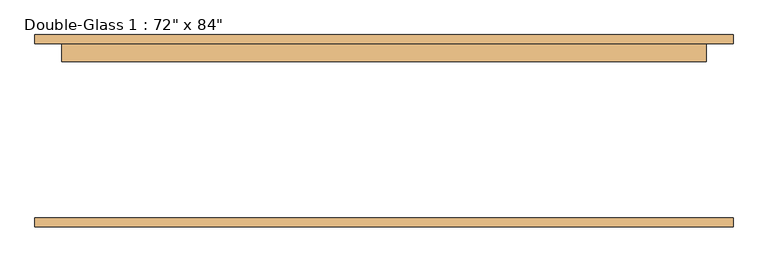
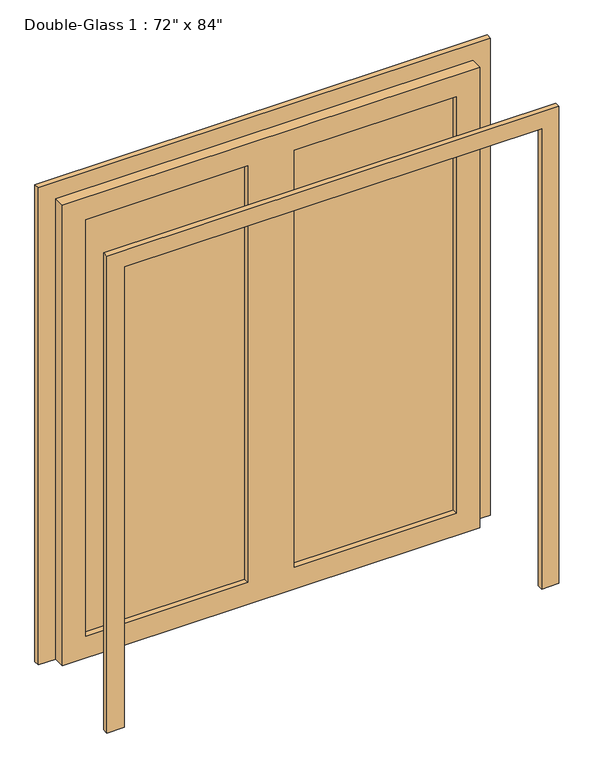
"""IFC4 building model written with IfcOpenShell, lengths in millimetres: door geometry."""

from ifc_helpers import new_model, si_unit, frame, origin, place, context, project, spatial, polyline, outline, extrude, source, transform, mapped, element, save


def door_c0c9bc6f(model_context):
    return source(origin(), model_context, "Body", "SweptSolid", [
        extrude(outline(polyline([(0.0, 990.6), (2209.8, 990.6), (2209.8, -990.6), (0.0, -990.6), (0.0, -914.4), (2133.6, -914.4), (2133.6, 914.4), (0.0, 914.4), (0.0, 990.6)])), frame((0.0, -270.66875, 0.0), z_axis=(0.0, 1.0, 0.0), x_axis=(0.0, 0.0, 1.0)), (0.0, 0.0, 1.0), 25.4),
        extrude(outline(polyline([(2133.6, 914.4), (0.0, 914.4), (0.0, 990.6), (2209.8, 990.6), (2209.8, -990.6), (0.0, -990.6), (0.0, -914.4), (2133.6, -914.4), (2133.6, 914.4)])), frame((0.0, 250.03125, 0.0), z_axis=(0.0, 1.0, 0.0), x_axis=(0.0, 0.0, 1.0)), (0.0, 0.0, 1.0), 25.4),
        extrude(outline(polyline([(812.8, 224.63125), (101.6, 224.63125), (101.6, 231.775), (812.8, 231.775), (812.8, 224.63125)])), frame((0.0, 0.0, 101.6), z_axis=(0.0, 0.0, 1.0), x_axis=(1.0, 0.0, 0.0)), (0.0, 0.0, 1.0), 1930.4),
        extrude(outline(polyline([(-101.6, 224.63125), (-812.8, 224.63125), (-812.8, 231.775), (-101.6, 231.775), (-101.6, 224.63125)])), frame((0.0, 0.0, 101.6), z_axis=(0.0, 0.0, 1.0), x_axis=(1.0, 0.0, 0.0)), (0.0, 0.0, 1.0), 1930.4),
        extrude(outline(polyline([(2133.6, 914.4), (2133.6, -914.4), (0.0, -914.4), (0.0, 914.4), (2133.6, 914.4)]), holes=[polyline([(2032.0, -101.6), (101.6, -101.6), (101.6, -812.8), (2032.0, -812.8), (2032.0, -101.6)]), polyline([(2032.0, 812.8), (101.6, 812.8), (101.6, 101.6), (2032.0, 101.6), (2032.0, 812.8)])]), frame((0.0, 199.23125, 0.0), z_axis=(0.0, 1.0, 0.0), x_axis=(0.0, 0.0, 1.0)), (0.0, 0.0, 1.0), 50.8),
    ])


if __name__ == "__main__":
    model = new_model("IFC4")
    model_context = context("Model", 3, world=origin())
    ifc_project = project(units=[si_unit("LENGTHUNIT", "METRE", prefix="MILLI")], contexts=[model_context])
    site = spatial("IfcSite", under=ifc_project)
    building = spatial("IfcBuilding", under=site)
    placement = place(None, origin())
    door_shape = door_c0c9bc6f(model_context)
    element("IfcDoor", 1, ObjectType="Double-Glass 1 : 72\" x 84\"", at=placement, inside=building, context=model_context, shape_type="MappedRepresentation", body=[
        mapped(door_shape, transform((0.0, 0.0, 0.0), x_axis=(1.0, 0.0, 0.0), y_axis=(0.0, 1.0, 0.0), z_axis=(0.0, 0.0, 1.0))),
    ])
    save(model, "model.ifc")
